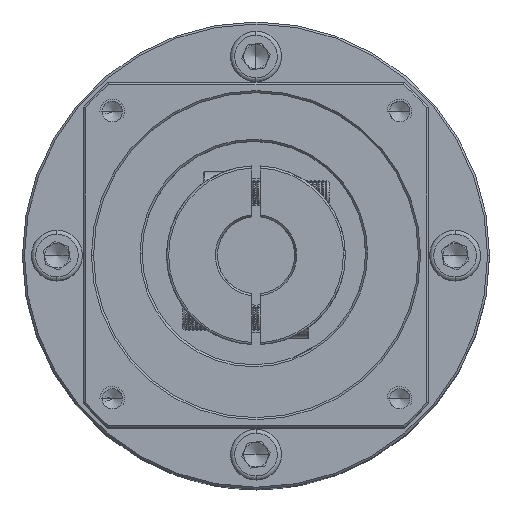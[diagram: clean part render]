
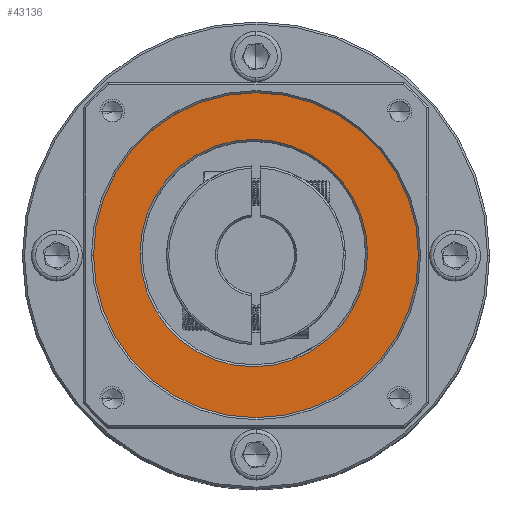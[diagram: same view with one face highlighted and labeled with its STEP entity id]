
A CAD part, top view. The second image highlights one B-rep face of the part: STEP entity #43136.
In plain terms, the highlighted planar face has unit normal (0, 0, 1).
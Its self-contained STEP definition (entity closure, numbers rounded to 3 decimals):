
#1187 = PLANE ( 'NONE',  #54722 ) ;
#3231 = ORIENTED_EDGE ( 'NONE', *, *, #68999, .T. ) ;
#4002 = DIRECTION ( 'NONE',  ( 1., 0., 0. ) ) ;
#9652 = CARTESIAN_POINT ( 'NONE',  ( 52.103, -33.587, 37.592 ) ) ;
#10141 = DIRECTION ( 'NONE',  ( 0., 0., 1. ) ) ;
#12164 = DIRECTION ( 'NONE',  ( 0., 0., -1. ) ) ;
#13169 = VERTEX_POINT ( 'NONE', #79739 ) ;
#14568 = DIRECTION ( 'NONE',  ( 0., 0., -1. ) ) ;
#19359 = VERTEX_POINT ( 'NONE', #9652 ) ;
#19474 = CARTESIAN_POINT ( 'NONE',  ( 92.103, -33.587, 37.592 ) ) ;
#19922 = EDGE_CURVE ( 'NONE', #19359, #31229, #72632, .T. ) ;
#25456 = EDGE_CURVE ( 'NONE', #13169, #101470, #109120, .T. ) ;
#30374 = ORIENTED_EDGE ( 'NONE', *, *, #19922, .T. ) ;
#30477 = DIRECTION ( 'NONE',  ( 0., 0., 1. ) ) ;
#31229 = VERTEX_POINT ( 'NONE', #92523 ) ;
#43136 = ADVANCED_FACE ( 'NONE', ( #97681, #71990 ), #1187, .T. ) ;
#50632 = CARTESIAN_POINT ( 'NONE',  ( 63.561, -33.053, 37.592 ) ) ;
#51190 = AXIS2_PLACEMENT_3D ( 'NONE', #70241, #12164, #91398 ) ;
#52374 = EDGE_CURVE ( 'NONE', #31229, #19359, #58271, .T. ) ;
#54722 = AXIS2_PLACEMENT_3D ( 'NONE', #89342, #30477, #88922 ) ;
#58271 = CIRCLE ( 'NONE', #87972, 40. ) ;
#59356 = ORIENTED_EDGE ( 'NONE', *, *, #52374, .T. ) ;
#61794 = DIRECTION ( 'NONE',  ( 0., 0., 1. ) ) ;
#62892 = CARTESIAN_POINT ( 'NONE',  ( 91.561, -33.053, 37.592 ) ) ;
#66693 = CIRCLE ( 'NONE', #120199, 28. ) ;
#68999 = EDGE_CURVE ( 'NONE', #101470, #13169, #66693, .T. ) ;
#70241 = CARTESIAN_POINT ( 'NONE',  ( 91.561, -33.053, 37.592 ) ) ;
#71159 = CARTESIAN_POINT ( 'NONE',  ( 92.103, -33.587, 37.592 ) ) ;
#71990 = FACE_BOUND ( 'NONE', #88541, .T. ) ;
#72632 = CIRCLE ( 'NONE', #81320, 40. ) ;
#73367 = ORIENTED_EDGE ( 'NONE', *, *, #25456, .T. ) ;
#78535 = EDGE_LOOP ( 'NONE', ( #59356, #30374 ) ) ;
#79739 = CARTESIAN_POINT ( 'NONE',  ( 119.561, -33.053, 37.592 ) ) ;
#81320 = AXIS2_PLACEMENT_3D ( 'NONE', #19474, #10141, #107150 ) ;
#87972 = AXIS2_PLACEMENT_3D ( 'NONE', #71159, #61794, #110122 ) ;
#88541 = EDGE_LOOP ( 'NONE', ( #73367, #3231 ) ) ;
#88922 = DIRECTION ( 'NONE',  ( 1., 0., 0. ) ) ;
#89342 = CARTESIAN_POINT ( 'NONE',  ( 92.103, -33.587, 37.592 ) ) ;
#91398 = DIRECTION ( 'NONE',  ( 1., 0., 0. ) ) ;
#92523 = CARTESIAN_POINT ( 'NONE',  ( 132.103, -33.587, 37.592 ) ) ;
#97681 = FACE_OUTER_BOUND ( 'NONE', #78535, .T. ) ;
#101470 = VERTEX_POINT ( 'NONE', #50632 ) ;
#107150 = DIRECTION ( 'NONE',  ( 1., 0., 0. ) ) ;
#109120 = CIRCLE ( 'NONE', #51190, 28. ) ;
#110122 = DIRECTION ( 'NONE',  ( 1., 0., 0. ) ) ;
#120199 = AXIS2_PLACEMENT_3D ( 'NONE', #62892, #14568, #4002 ) ;
